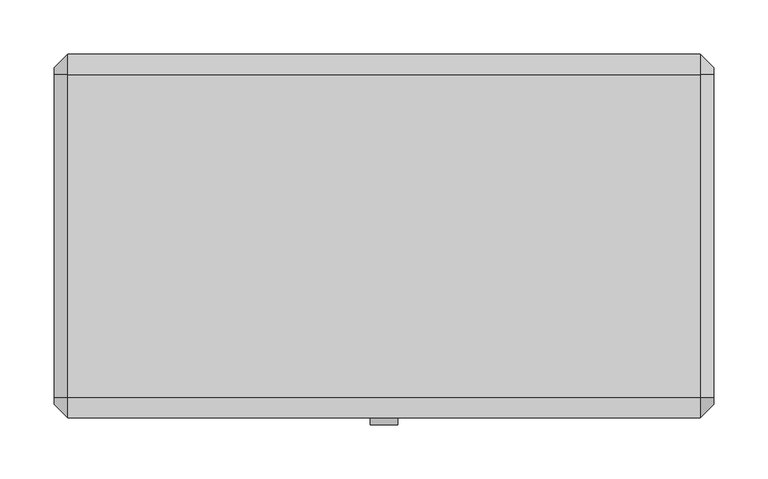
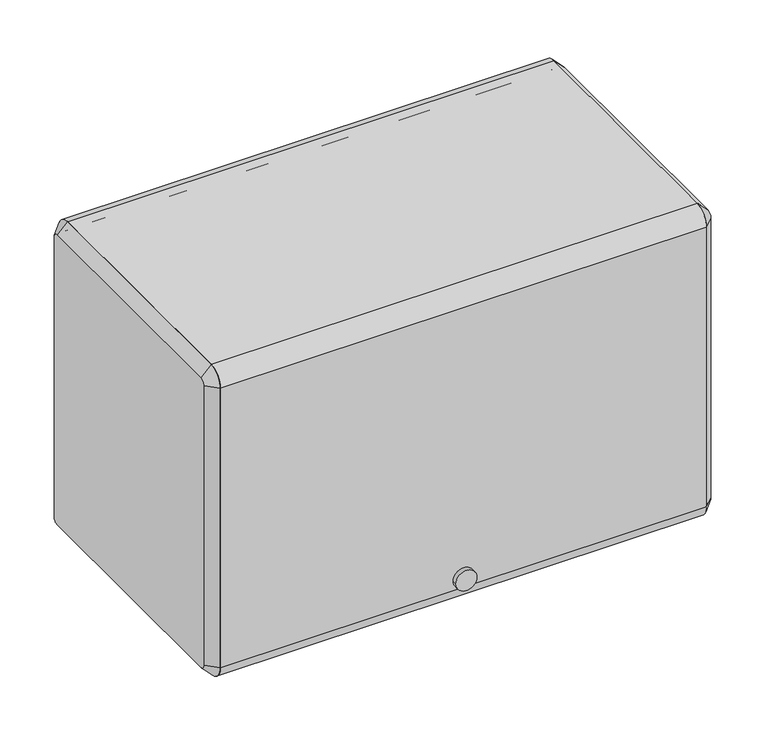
"""IFC4 building model written with IfcOpenShell, lengths in millimetres: furniture geometry."""

from ifc_helpers import new_model, si_unit, point, frame, frame_2d, origin, place, context, project, spatial, polyline, circle_curve, trimmed, segment, composite_curve, outline, extrude, source, transform, mapped, element, save
from ifc_brep_helpers import plane_surface, revolved_surface, advanced_brep


def furniture_b123b550(model_context):
    return source(origin(), model_context, "Body", "SolidModel", [
        extrude(outline(composite_curve([segment(polyline([(-136.525, 1689.1), (-136.525, 1701.8), (161.925, 1701.8)]), True, "CONTINUOUS"), segment(trimmed(circle_curve(frame_2d((161.925, 1682.75)), 19.05), [point((161.925, 1701.8))], [point((180.975, 1682.75))], False, "CARTESIAN"), True, "CONTINUOUS"), segment(polyline([(180.975, 1682.75), (168.275, 1682.75)]), True, "CONTINUOUS"), segment(trimmed(circle_curve(frame_2d((161.925, 1682.75)), 6.35), [point((168.275, 1682.75))], [point((161.925, 1689.1))], True, "CARTESIAN"), True, "CONTINUOUS"), segment(polyline([(161.925, 1689.1), (-136.525, 1689.1)]), True, "CONTINUOUS")], self_intersect=False)), frame((-292.1, 0.0, 0.0), z_axis=(1.0, 0.0, 0.0), x_axis=(0.0, 1.0, 0.0)), (0.0, 0.0, 1.0), 584.2),
        extrude(outline(composite_curve([segment(trimmed(circle_curve(frame_2d((-136.525, 1682.75)), 19.05), [point((-155.575, 1682.75))], [point((-136.525, 1701.8))], False, "CARTESIAN"), True, "CONTINUOUS"), segment(polyline([(-136.525, 1701.8), (-136.525, 1689.1)]), True, "CONTINUOUS"), segment(trimmed(circle_curve(frame_2d((-136.525, 1682.75)), 6.35), [point((-136.525, 1689.1))], [point((-142.875, 1682.75))], True, "CARTESIAN"), True, "CONTINUOUS"), segment(polyline([(-142.875, 1682.75), (-142.875, 1327.15)]), True, "CONTINUOUS"), segment(trimmed(circle_curve(frame_2d((-136.525, 1327.15)), 6.35), [point((-142.875, 1327.15))], [point((-136.525, 1320.8))], True, "CARTESIAN"), True, "CONTINUOUS"), segment(polyline([(-136.525, 1320.8), (-136.525, 1308.1)]), True, "CONTINUOUS"), segment(trimmed(circle_curve(frame_2d((-136.525, 1327.15)), 19.05), [point((-136.525, 1308.1))], [point((-155.575, 1327.15))], False, "CARTESIAN"), True, "CONTINUOUS"), segment(polyline([(-155.575, 1327.15), (-155.575, 1682.75)]), True, "CONTINUOUS")], self_intersect=False)), frame((-292.1, 0.0, 0.0), z_axis=(1.0, 0.0, 0.0), x_axis=(0.0, 1.0, 0.0)), (0.0, 0.0, 1.0), 584.2),
        extrude(outline(composite_curve([segment(trimmed(circle_curve(frame_2d((1339.8118906, 0.0201199)), 12.7253951), [point((1339.8118906, 12.745515))], [point((1339.8118906, -12.7052752))], False, "CARTESIAN"), True, "CONTINUOUS"), segment(trimmed(circle_curve(frame_2d((1339.8118906, 0.0201199)), 12.7253951), [point((1339.8118906, -12.7052752))], [point((1339.8118906, 12.745515))], False, "CARTESIAN"), True, "CONTINUOUS")], self_intersect=False)), frame((0.0, -161.925, 0.0), z_axis=(0.0, 1.0, 0.0), x_axis=(0.0, 0.0, 1.0)), (0.0, 0.0, 1.0), 6.35),
        extrude(outline(polyline([(-136.525, 1346.2), (161.925, 1346.2), (161.925, 1384.3), (174.625, 1384.3), (174.625, 1381.125), (165.1, 1381.125), (165.1, 1343.025), (-133.35, 1343.025), (-133.35, 1323.975), (-136.525, 1323.975), (-136.525, 1346.2)])), frame((-292.1, 0.0, 0.0), z_axis=(1.0, 0.0, 0.0), x_axis=(0.0, 1.0, 0.0)), (0.0, 0.0, 1.0), 584.2),
        advanced_brep(
        [(304.8, 161.925, 1689.1), (304.8, -136.525, 1689.1), (304.8, -142.875, 1682.75), (304.8, -142.875, 1327.15), (304.8, -136.525, 1320.8), (304.8, 161.925, 1320.8), (304.8, 168.275, 1327.15), (304.8, 168.275, 1682.75), (292.1, 161.925, 1701.8), (292.1, 180.975, 1682.75), (292.1, 180.975, 1327.15), (292.1, 161.925, 1308.1), (292.1, -136.525, 1308.1), (292.1, -155.575, 1327.15), (292.1, -155.575, 1682.75), (292.1, -136.525, 1701.8)],
        [
            (0, 1),
            (1, 2, circle_curve(frame((304.8, -136.525, 1682.75), z_axis=(1.0, 6.4908078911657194e-12, -6.608047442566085e-12), x_axis=(6.608048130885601e-12, 0.0, 1.0)), 6.35)),
            (2, 3),
            (3, 4, circle_curve(frame((304.8, -136.525, 1327.15), z_axis=(1.0, 3.3733016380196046e-12, 3.3679725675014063e-12), x_axis=(3.3733436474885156e-12, -1.0, 0.0)), 6.35)),
            (4, 5),
            (5, 6, circle_curve(frame((304.8, 161.925, 1327.15), z_axis=(1.0, 3.378630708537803e-12, -3.4106051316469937e-12), x_axis=(-3.41055483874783e-12, 0.0, -1.0)), 6.35)),
            (6, 7),
            (7, 0, circle_curve(frame((304.8, 161.925, 1682.75), z_axis=(1.0, 6.4828142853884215e-12, 6.373568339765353e-12), x_axis=(-6.482754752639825e-12, 1.0, 0.0)), 6.35)),
            (8, 9, circle_curve(frame((292.1, 161.925, 1682.75), z_axis=(-1.0, -6.4828142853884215e-12, -6.373568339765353e-12), x_axis=(-6.482754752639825e-12, 1.0, 0.0)), 19.05)),
            (9, 10),
            (10, 11, circle_curve(frame((292.1, 161.925, 1327.15), z_axis=(-1.0, -3.378630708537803e-12, 3.4106051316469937e-12), x_axis=(-3.41055483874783e-12, 0.0, -1.0)), 19.05)),
            (11, 12),
            (12, 13, circle_curve(frame((292.1, -136.525, 1327.15), z_axis=(-1.0, -3.3733016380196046e-12, -3.3679725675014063e-12), x_axis=(3.3733436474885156e-12, -1.0, 0.0)), 19.05)),
            (13, 14),
            (14, 15, circle_curve(frame((292.1, -136.525, 1682.75), z_axis=(-1.0, -6.4908078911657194e-12, 6.608047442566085e-12), x_axis=(6.608048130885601e-12, 0.0, 1.0)), 19.05)),
            (15, 8),
            (15, 1),
            (0, 8),
            (14, 2),
            (13, 3),
            (12, 4),
            (11, 5),
            (10, 6),
            (9, 7),
        ],
        [
            plane_surface(frame((304.8, 12.7, 1504.95), z_axis=(1.0, 0.0, 0.0), x_axis=(0.0, -1.0, 0.0))),
            plane_surface(frame((292.1, 12.7, 1504.95), z_axis=(-1.0, 0.0, 0.0), x_axis=(0.0, -1.0, 0.0))),
            plane_surface(frame((292.1, 12.7, 1701.8), z_axis=(0.7071067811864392, 0.0, 0.7071067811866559), x_axis=(0.0, -1.0, 0.0))),
            revolved_surface(polyline([(304.80000000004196, -136.525, 1689.099999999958), (292.1, -136.525, 1701.8)]), (311.15, -136.525, 1682.75), (-1.0, -6.4908078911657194e-12, 6.608047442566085e-12)),
            plane_surface(frame((292.1, -155.575, 1504.95), z_axis=(0.707106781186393, -0.707106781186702, 0.0), x_axis=(0.0, 0.0, -1.0))),
            revolved_surface(polyline([(304.80000000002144, -142.87499999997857, 1327.15), (292.1, -155.575, 1327.15)]), (311.15, -136.525, 1327.15), (-1.0, -3.3733016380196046e-12, -3.3679725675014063e-12)),
            plane_surface(frame((292.1, 12.7, 1308.1), z_axis=(0.7071067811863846, 0.0, -0.7071067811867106), x_axis=(0.0, 1.0, 0.0))),
            revolved_surface(polyline([(304.8, 161.925, 1320.8), (292.09999999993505, 161.925, 1308.0999999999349)]), (311.15, 161.925, 1327.15), (-1.0, -3.378630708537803e-12, 3.4106051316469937e-12)),
            plane_surface(frame((292.1, 180.975, 1504.95), z_axis=(0.7071067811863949, 0.7071067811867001, 0.0), x_axis=(0.0, 0.0, 1.0))),
            revolved_surface(polyline([(304.8, 168.27499999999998, 1682.75), (292.0999999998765, 180.9750000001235, 1682.75)]), (311.15, 161.925, 1682.75), (-1.0, -6.4828142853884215e-12, -6.373568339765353e-12)),
        ],
        [
            (0, [[1, 2, 3, 4, 5, 6, 7, 8]]),
            (1, [[9, 10, 11, 12, 13, 14, 15, 16]]),
            (2, [[-16, 17, -1, 18]]),
            (3, [[-15, 19, -2, -17]]),
            (4, [[-14, 20, -3, -19]]),
            (5, [[-13, 21, -4, -20]]),
            (6, [[-12, 22, -5, -21]]),
            (7, [[-11, 23, -6, -22]]),
            (8, [[-10, 24, -7, -23]]),
            (9, [[-9, -18, -8, -24]]),
        ],
    ),
        advanced_brep(
        [(-304.8, -136.525, 1689.1), (-304.8, 161.925, 1689.1), (-304.8, 168.275, 1682.75), (-304.8, 168.275, 1327.15), (-304.8, 161.925, 1320.8), (-304.8, -136.525, 1320.8), (-304.8, -142.875, 1327.15), (-304.8, -142.875, 1682.75), (-292.1, -136.525, 1701.8), (-292.1, -155.575, 1682.75), (-292.1, -155.575, 1327.15), (-292.1, -136.525, 1308.1), (-292.1, 161.925, 1308.1), (-292.1, 180.975, 1327.15), (-292.1, 180.975, 1682.75), (-292.1, 161.925, 1701.8)],
        [
            (0, 1),
            (1, 2, circle_curve(frame((-304.8, 161.925, 1682.75), z_axis=(-1.0, 3.365308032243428e-12, 3.453237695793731e-12), x_axis=(3.4532613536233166e-12, 0.0, 1.0)), 6.35)),
            (2, 3),
            (3, 4, circle_curve(frame((-304.8, 161.925, 1327.15), z_axis=(-1.0, 0.0, 0.0), x_axis=(0.0, 1.0, 0.0)), 6.35)),
            (4, 5),
            (5, 6, circle_curve(frame((-304.8, -136.525, 1327.15), z_axis=(-1.0, 0.0, 0.0), x_axis=(0.0, 0.0, -1.0)), 6.35)),
            (6, 7),
            (7, 0, circle_curve(frame((-304.8, -136.525, 1682.75), z_axis=(-1.0, 3.381295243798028e-12, -3.2827074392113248e-12), x_axis=(-3.3813511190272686e-12, -1.0, 0.0)), 6.35)),
            (8, 9, circle_curve(frame((-292.1, -136.525, 1682.75), z_axis=(1.0, -3.381295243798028e-12, 3.2827074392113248e-12), x_axis=(-3.3813511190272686e-12, -1.0, 0.0)), 19.05)),
            (9, 10),
            (10, 11, circle_curve(frame((-292.1, -136.525, 1327.15), z_axis=(1.0, 0.0, 0.0), x_axis=(0.0, 0.0, -1.0)), 19.05)),
            (11, 12),
            (12, 13, circle_curve(frame((-292.1, 161.925, 1327.15), z_axis=(1.0, 0.0, 0.0), x_axis=(0.0, 1.0, 0.0)), 19.05)),
            (13, 14),
            (14, 15, circle_curve(frame((-292.1, 161.925, 1682.75), z_axis=(1.0, -3.365308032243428e-12, -3.453237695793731e-12), x_axis=(3.4532613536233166e-12, 0.0, 1.0)), 19.05)),
            (15, 8),
            (15, 1),
            (0, 8),
            (14, 2),
            (13, 3),
            (12, 4),
            (11, 5),
            (10, 6),
            (9, 7),
        ],
        [
            plane_surface(frame((-304.8, 12.7, 1504.95), z_axis=(-1.0, 0.0, 0.0), x_axis=(0.0, -1.0, 0.0))),
            plane_surface(frame((-292.1, 12.7, 1504.95), z_axis=(1.0, 0.0, 0.0), x_axis=(0.0, -1.0, 0.0))),
            plane_surface(frame((-292.1, 12.7, 1701.8), z_axis=(-0.7071067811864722, 0.0, 0.707106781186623), x_axis=(0.0, 1.0, 0.0))),
            revolved_surface(polyline([(-304.8, 161.925, 1689.1), (-292.09999999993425, 161.925, 1701.8000000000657)]), (-311.15, 161.925, 1682.75), (1.0, -3.365308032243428e-12, -3.453237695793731e-12)),
            plane_surface(frame((-292.1, 180.975, 1504.95), z_axis=(-0.7071067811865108, 0.7071067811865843, 0.0), x_axis=(0.0, 0.0, -1.0))),
            revolved_surface(polyline([(-304.8, 168.27499999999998, 1327.15), (-292.1, 180.975, 1327.15)]), (-311.15, 161.925, 1327.15), (1.0, 0.0, 0.0)),
            plane_surface(frame((-292.1, 12.7, 1308.1), z_axis=(-0.7071067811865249, 0.0, -0.7071067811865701), x_axis=(0.0, -1.0, 0.0))),
            revolved_surface(polyline([(-304.8, -136.525, 1320.8), (-292.1, -136.525, 1308.1)]), (-311.15, -136.525, 1327.15), (1.0, 0.0, 0.0)),
            plane_surface(frame((-292.1, -155.575, 1504.95), z_axis=(-0.7071067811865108, -0.7071067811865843, 0.0), x_axis=(0.0, 0.0, 1.0))),
            revolved_surface(polyline([(-304.8000000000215, -142.8749999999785, 1682.75), (-292.1, -155.575, 1682.75)]), (-311.15, -136.525, 1682.75), (1.0, -3.381295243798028e-12, 3.2827074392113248e-12)),
        ],
        [
            (0, [[1, 2, 3, 4, 5, 6, 7, 8]]),
            (1, [[9, 10, 11, 12, 13, 14, 15, 16]]),
            (2, [[-16, 17, -1, 18]]),
            (3, [[-15, 19, -2, -17]]),
            (4, [[-14, 20, -3, -19]]),
            (5, [[-13, 21, -4, -20]]),
            (6, [[-12, 22, -5, -21]]),
            (7, [[-11, 23, -6, -22]]),
            (8, [[-10, 24, -7, -23]]),
            (9, [[-9, -18, -8, -24]]),
        ],
    ),
    ])


if __name__ == "__main__":
    model = new_model("IFC4")
    model_context = context("Model", 3, world=origin())
    ifc_project = project(units=[si_unit("LENGTHUNIT", "METRE", prefix="MILLI")], contexts=[model_context])
    site = spatial("IfcSite", under=ifc_project)
    building = spatial("IfcBuilding", under=site)
    placement = place(None, origin())
    furniture_shape = furniture_b123b550(model_context)
    element("IfcFurniture", 1, ObjectType="HermanMiller_ActionOffice_A3352_B-StyleFlipperDoorUnit : 15 1/2\"H x 13\"D x 24\"W", at=placement, inside=building, context=model_context, shape_type="MappedRepresentation", body=[
        mapped(furniture_shape, transform((0.0, 0.0, 0.0), x_axis=(1.0, 0.0, 0.0), y_axis=(0.0, 1.0, 0.0), z_axis=(0.0, 0.0, 1.0))),
    ])
    save(model, "model.ifc")
